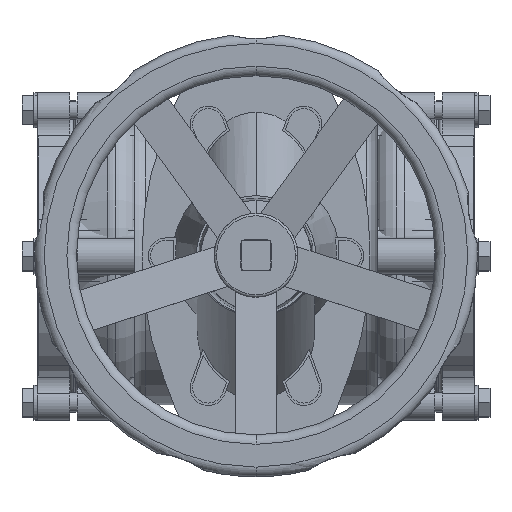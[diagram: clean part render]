
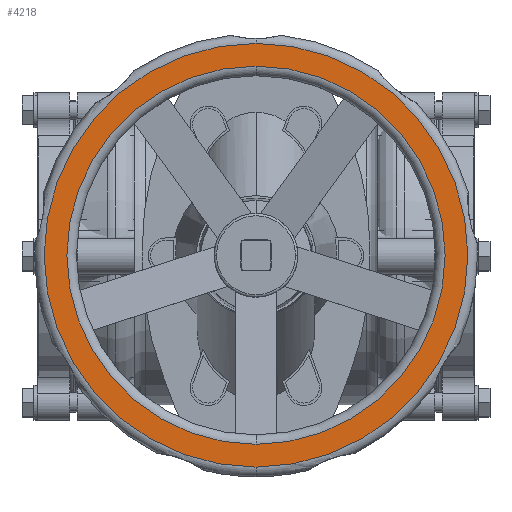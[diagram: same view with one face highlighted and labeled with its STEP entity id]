
A CAD part, top view. The second image highlights one B-rep face of the part: STEP entity #4218.
In plain terms, the highlighted planar face has unit normal (0, 0, 1).
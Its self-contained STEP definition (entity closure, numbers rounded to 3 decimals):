
#4218=ADVANCED_FACE('',(#7763,#7764),#7765,.T.);
#7763=FACE_BOUND('',#11612,.T.);
#7764=FACE_OUTER_BOUND('',#11613,.T.);
#7765=PLANE('',#11614);
#11612=EDGE_LOOP('',(#19877,#19878,#19879));
#11613=EDGE_LOOP('',(#19880,#19881,#19882));
#11614=AXIS2_PLACEMENT_3D('',#19883,#19884,#19885);
#19877=ORIENTED_EDGE('',*,*,#20820,.F.);
#19878=ORIENTED_EDGE('',*,*,#20819,.F.);
#19879=ORIENTED_EDGE('',*,*,#21531,.F.);
#19880=ORIENTED_EDGE('',*,*,#21739,.T.);
#19881=ORIENTED_EDGE('',*,*,#22688,.T.);
#19882=ORIENTED_EDGE('',*,*,#21740,.T.);
#19883=CARTESIAN_POINT('',(-115.0,0.,590.0));
#19884=DIRECTION('',(0.,0.,1.0));
#19885=DIRECTION('',(-1.0,0.,0.));
#20819=EDGE_CURVE('',#24379,#24382,#24383,.T.);
#20820=EDGE_CURVE('',#24382,#24384,#24385,.T.);
#21531=EDGE_CURVE('',#24384,#24379,#25615,.T.);
#21739=EDGE_CURVE('',#25955,#25953,#25956,.T.);
#21740=EDGE_CURVE('',#25935,#25955,#25957,.T.);
#22688=EDGE_CURVE('',#25953,#25935,#27387,.T.);
#24379=VERTEX_POINT('',#29410);
#24382=VERTEX_POINT('',#29413);
#24383=CIRCLE('',#29414,158.0);
#24384=VERTEX_POINT('',#29415);
#24385=CIRCLE('',#29416,158.0);
#25615=CIRCLE('',#31024,158.0);
#25935=VERTEX_POINT('',#31416);
#25953=VERTEX_POINT('',#31589);
#25955=VERTEX_POINT('',#31591);
#25956=CIRCLE('',#31592,177.0);
#25957=CIRCLE('',#31593,177.0);
#27387=CIRCLE('',#33507,177.0);
#29410=CARTESIAN_POINT('',(52.5,158.0,590.0));
#29413=CARTESIAN_POINT('',(-105.5,0.,590.0));
#29414=AXIS2_PLACEMENT_3D('',#35987,#35988,#35989);
#29415=CARTESIAN_POINT('',(52.5,-158.0,590.0));
#29416=AXIS2_PLACEMENT_3D('',#35990,#35991,#35992);
#31024=AXIS2_PLACEMENT_3D('',#37006,#37007,#37008);
#31416=CARTESIAN_POINT('',(52.5,177.0,590.0));
#31589=CARTESIAN_POINT('',(52.5,-177.0,590.0));
#31591=CARTESIAN_POINT('',(-124.5,0.,590.0));
#31592=AXIS2_PLACEMENT_3D('',#37333,#37334,#37335);
#31593=AXIS2_PLACEMENT_3D('',#37336,#37337,#37338);
#33507=AXIS2_PLACEMENT_3D('',#38579,#38580,#38581);
#35987=CARTESIAN_POINT('',(52.5,0.,590.0));
#35988=DIRECTION('',(0.,0.,1.0));
#35989=DIRECTION('',(-1.0,0.,0.));
#35990=CARTESIAN_POINT('',(52.5,0.,590.0));
#35991=DIRECTION('',(0.,0.,1.0));
#35992=DIRECTION('',(-1.0,0.,0.));
#37006=CARTESIAN_POINT('',(52.5,0.,590.0));
#37007=DIRECTION('',(0.,0.,1.0));
#37008=DIRECTION('',(-1.0,0.,0.));
#37333=CARTESIAN_POINT('',(52.5,0.,590.0));
#37334=DIRECTION('',(0.,0.,1.0));
#37335=DIRECTION('',(-1.0,0.,0.));
#37336=CARTESIAN_POINT('',(52.5,0.,590.0));
#37337=DIRECTION('',(0.,0.,1.0));
#37338=DIRECTION('',(-1.0,0.,0.));
#38579=CARTESIAN_POINT('',(52.5,0.,590.0));
#38580=DIRECTION('',(0.,0.,1.0));
#38581=DIRECTION('',(-1.0,0.,0.));
